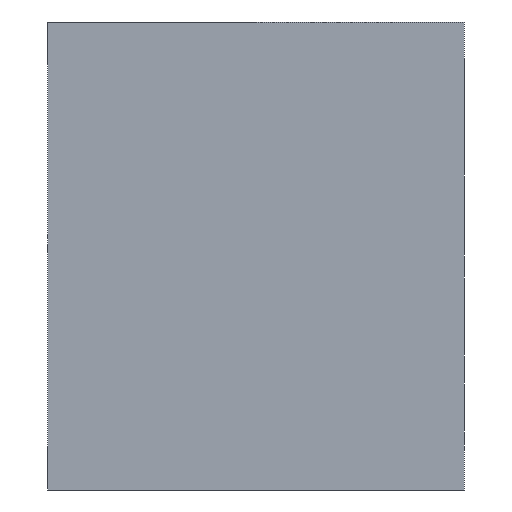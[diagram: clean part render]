
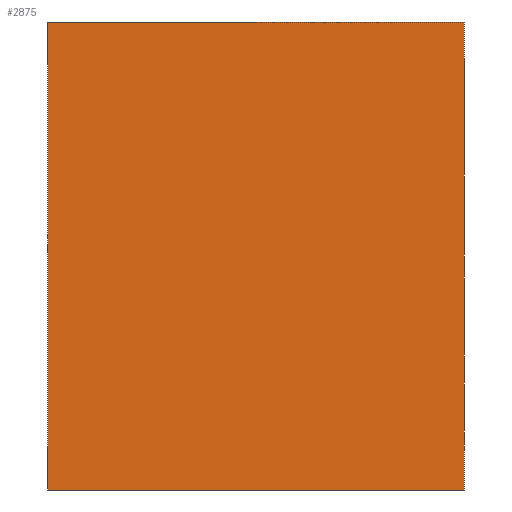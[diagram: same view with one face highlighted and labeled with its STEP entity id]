
A CAD part, left-side view. The second image highlights one B-rep face of the part: STEP entity #2875.
In plain terms, the highlighted planar face has unit normal (-1, 0, 0).
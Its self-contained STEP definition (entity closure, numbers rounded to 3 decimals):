
#23=DIRECTION('',(0.,-1.,0.));
#24=VECTOR('',#23,40.);
#25=CARTESIAN_POINT('',(-80.,40.,0.));
#26=LINE('',#25,#24);
#52=DIRECTION('',(0.,0.,1.));
#53=VECTOR('',#52,45.);
#54=CARTESIAN_POINT('',(-80.,40.,0.));
#55=LINE('',#54,#53);
#284=DIRECTION('',(0.,0.,1.));
#285=VECTOR('',#284,45.);
#286=CARTESIAN_POINT('',(-80.,0.,0.));
#287=LINE('',#286,#285);
#435=DIRECTION('',(0.,-1.,0.));
#436=VECTOR('',#435,40.);
#437=CARTESIAN_POINT('',(-80.,40.,45.));
#438=LINE('',#437,#436);
#2571=CARTESIAN_POINT('',(-80.,40.,0.));
#2572=CARTESIAN_POINT('',(-80.,0.,0.));
#2573=VERTEX_POINT('',#2571);
#2574=VERTEX_POINT('',#2572);
#2579=CARTESIAN_POINT('',(-80.,40.,45.));
#2580=CARTESIAN_POINT('',(-80.,0.,45.));
#2581=VERTEX_POINT('',#2579);
#2582=VERTEX_POINT('',#2580);
#2861=CARTESIAN_POINT('',(-80.,40.,0.));
#2862=DIRECTION('',(-1.,0.,0.));
#2863=DIRECTION('',(0.,-1.,0.));
#2864=AXIS2_PLACEMENT_3D('',#2861,#2862,#2863);
#2865=PLANE('',#2864);
#2866=ORIENTED_EDGE('',*,*,#2838,.F.);
#2868=ORIENTED_EDGE('',*,*,#2867,.T.);
#2870=ORIENTED_EDGE('',*,*,#2869,.T.);
#2872=ORIENTED_EDGE('',*,*,#2871,.F.);
#2873=EDGE_LOOP('',(#2866,#2868,#2870,#2872));
#2874=FACE_OUTER_BOUND('',#2873,.F.);
#2838=EDGE_CURVE('',#2573,#2574,#26,.T.);
#2867=EDGE_CURVE('',#2573,#2581,#55,.T.);
#2869=EDGE_CURVE('',#2581,#2582,#438,.T.);
#2871=EDGE_CURVE('',#2574,#2582,#287,.T.);
#2875=ADVANCED_FACE('',(#2874),#2865,.T.);
